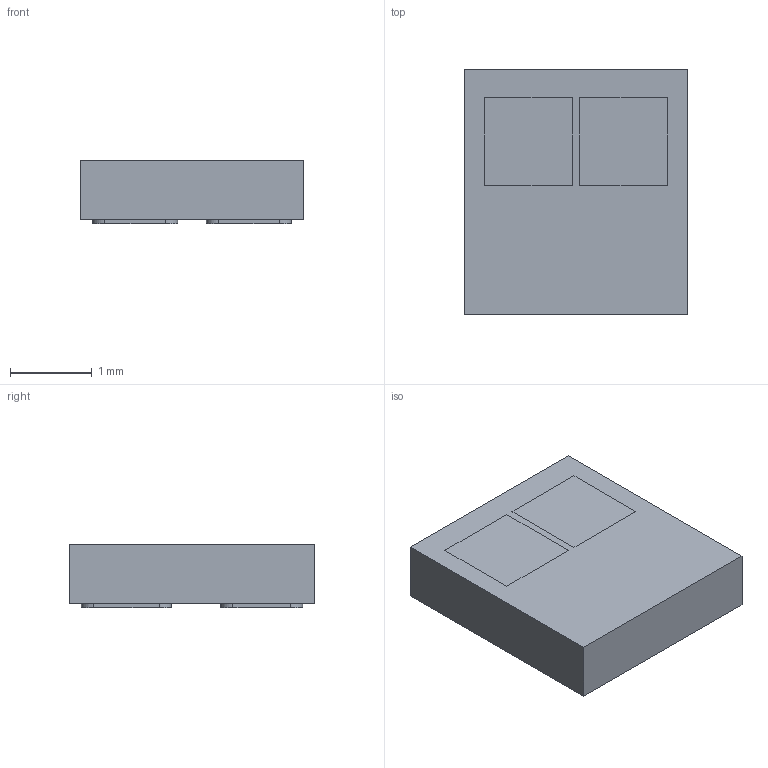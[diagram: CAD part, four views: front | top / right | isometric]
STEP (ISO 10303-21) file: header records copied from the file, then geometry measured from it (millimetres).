
FILE_DESCRIPTION (( 'STEP AP214' ), '1' );
FILE_NAME ('ASL2.STEP', '2025-02-18T08:16:25', ( '' ), ( '' ), 'SwSTEP 2.0', 'SolidWorks 2022', '' );
FILE_SCHEMA (( 'AUTOMOTIVE_DESIGN' ));
Length unit declared in the file: millimetre
Products named in the file (1): ASL2
Bounding box: 2.73 x 3 x 0.78 mm (x, y, z)
Volume: 6.2 mm3; surface area: 25.5 mm2
Topology: 1 solids, 1 shells, 47 faces, 125 edges, 86 vertices
Faces by surface type: plane 32, cylinder 15
Entity records: 2024 total; most frequent: CARTESIAN_POINT 259, DIRECTION 251, ORIENTED_EDGE 250, EDGE_CURVE 125, VECTOR 95, LINE 95, VERTEX_POINT 86, AXIS2_PLACEMENT_3D 78
